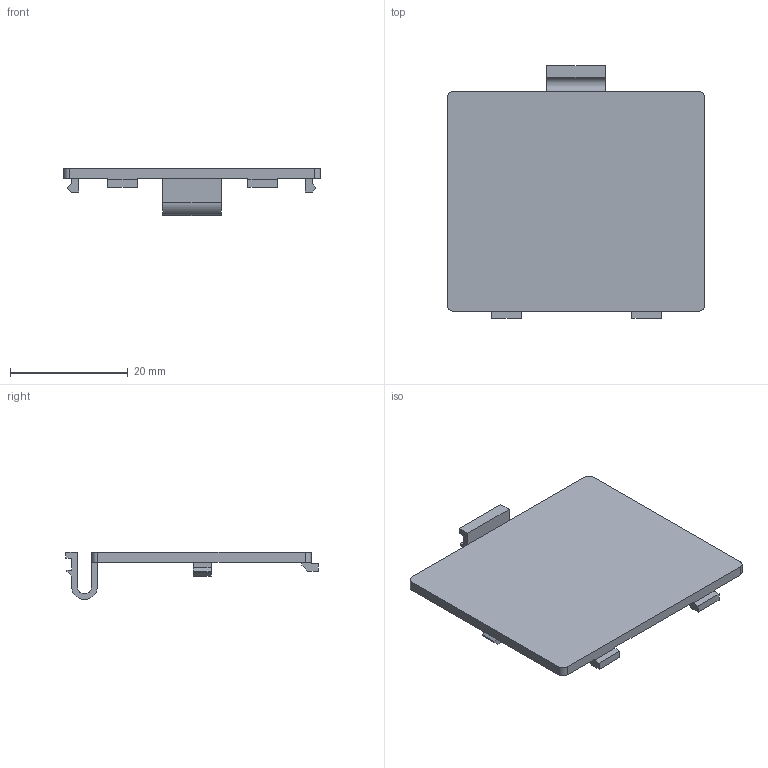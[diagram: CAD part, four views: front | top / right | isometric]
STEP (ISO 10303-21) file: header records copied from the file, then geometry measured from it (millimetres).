
FILE_DESCRIPTION (( 'STEP AP203' ), '1' );
FILE_NAME ('G-狟褲裔苤.STEP', '2023-07-04T15:04:19', ( 'shan123' ), ( 'Razer' ), 'SwSTEP 2.0', 'SolidWorks 2018', '' );
FILE_SCHEMA (( 'CONFIG_CONTROL_DESIGN' ));
Length unit declared in the file: millimetre
Products named in the file (1): G-狟褲裔苤
Bounding box: 43.6 x 42.9 x 8 mm (x, y, z)
Volume: 2984.5 mm3; surface area: 3998.1 mm2
Topology: 1 solids, 1 shells, 54 faces, 150 edges, 100 vertices
Faces by surface type: plane 48, cylinder 6
Entity records: 1783 total; most frequent: CARTESIAN_POINT 305, ORIENTED_EDGE 300, DIRECTION 272, EDGE_CURVE 150, VECTOR 138, LINE 138, VERTEX_POINT 100, AXIS2_PLACEMENT_3D 67
